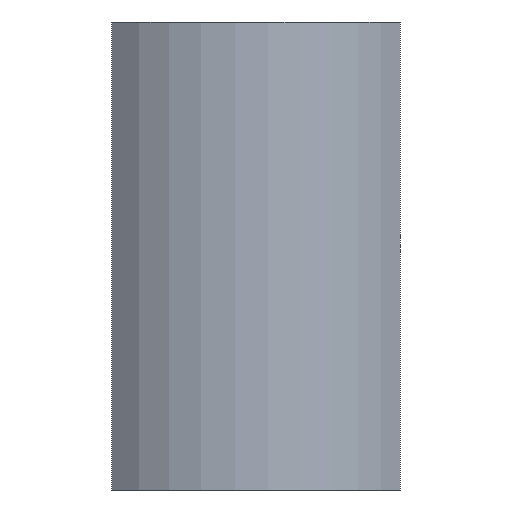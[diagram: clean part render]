
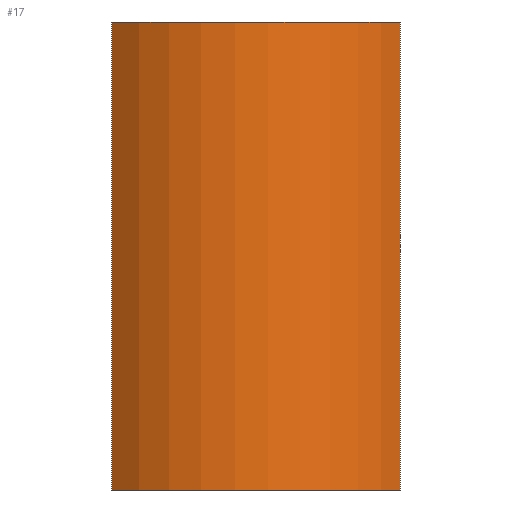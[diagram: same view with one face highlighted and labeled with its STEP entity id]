
A CAD part, front view. The second image highlights one B-rep face of the part: STEP entity #17.
In plain terms, the highlighted cylindrical face has radius 45 mm (diameter 90 mm), a partial arc.
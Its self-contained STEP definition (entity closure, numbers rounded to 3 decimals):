
#17 = ADVANCED_FACE('',(#18),#33,.T.);
#18 = FACE_BOUND('',#19,.F.);
#19 = EDGE_LOOP('',(#20,#56,#82,#111));
#20 = ORIENTED_EDGE('',*,*,#21,.F.);
#21 = EDGE_CURVE('',#22,#24,#26,.T.);
#22 = VERTEX_POINT('',#23);
#23 = CARTESIAN_POINT('',(-28.925,-34.472,0.));
#24 = VERTEX_POINT('',#25);
#25 = CARTESIAN_POINT('',(38.971,-22.5,0.));
#26 = SURFACE_CURVE('',#27,(#32,#44),.PCURVE_S1.);
#27 = CIRCLE('',#28,45.);
#28 = AXIS2_PLACEMENT_3D('',#29,#30,#31);
#29 = CARTESIAN_POINT('',(0.,0.,0.));
#30 = DIRECTION('',(0.,0.,1.));
#31 = DIRECTION('',(1.,0.,0.));
#32 = PCURVE('',#33,#38);
#33 = CYLINDRICAL_SURFACE('',#34,45.);
#34 = AXIS2_PLACEMENT_3D('',#35,#36,#37);
#35 = CARTESIAN_POINT('',(0.,0.,0.));
#36 = DIRECTION('',(-0.,-0.,-1.));
#37 = DIRECTION('',(1.,0.,0.));
#38 = DEFINITIONAL_REPRESENTATION('',(#39),#43);
#39 = LINE('',#40,#41);
#40 = CARTESIAN_POINT('',(-0.,0.));
#41 = VECTOR('',#42,1.);
#42 = DIRECTION('',(-1.,0.));
#43 = ( GEOMETRIC_REPRESENTATION_CONTEXT(2) 
PARAMETRIC_REPRESENTATION_CONTEXT() REPRESENTATION_CONTEXT('2D SPACE',''
  ) );
#44 = PCURVE('',#45,#50);
#45 = PLANE('',#46);
#46 = AXIS2_PLACEMENT_3D('',#47,#48,#49);
#47 = CARTESIAN_POINT('',(0.,0.,0.));
#48 = DIRECTION('',(0.,0.,1.));
#49 = DIRECTION('',(1.,0.,-0.));
#50 = DEFINITIONAL_REPRESENTATION('',(#51),#55);
#51 = CIRCLE('',#52,45.);
#52 = AXIS2_PLACEMENT_2D('',#53,#54);
#53 = CARTESIAN_POINT('',(0.,0.));
#54 = DIRECTION('',(1.,0.));
#55 = ( GEOMETRIC_REPRESENTATION_CONTEXT(2) 
PARAMETRIC_REPRESENTATION_CONTEXT() REPRESENTATION_CONTEXT('2D SPACE',''
  ) );
#56 = ORIENTED_EDGE('',*,*,#57,.F.);
#57 = EDGE_CURVE('',#58,#22,#60,.T.);
#58 = VERTEX_POINT('',#59);
#59 = CARTESIAN_POINT('',(-28.925,-34.472,110.));
#60 = SURFACE_CURVE('',#61,(#65,#71),.PCURVE_S1.);
#61 = LINE('',#62,#63);
#62 = CARTESIAN_POINT('',(-28.925,-34.472,0.));
#63 = VECTOR('',#64,1.);
#64 = DIRECTION('',(-0.,-0.,-1.));
#65 = PCURVE('',#33,#66);
#66 = DEFINITIONAL_REPRESENTATION('',(#67),#70);
#67 = B_SPLINE_CURVE_WITH_KNOTS('',1,(#68,#69),.UNSPECIFIED.,.F.,.F.,(2,
    2),(-110.,0.),.PIECEWISE_BEZIER_KNOTS.);
#68 = CARTESIAN_POINT('',(-4.014,-110.));
#69 = CARTESIAN_POINT('',(-4.014,0.));
#70 = ( GEOMETRIC_REPRESENTATION_CONTEXT(2) 
PARAMETRIC_REPRESENTATION_CONTEXT() REPRESENTATION_CONTEXT('2D SPACE',''
  ) );
#71 = PCURVE('',#72,#77);
#72 = PLANE('',#73);
#73 = AXIS2_PLACEMENT_3D('',#74,#75,#76);
#74 = CARTESIAN_POINT('',(0.,0.,0.));
#75 = DIRECTION('',(0.766,-0.643,0.));
#76 = DIRECTION('',(-0.643,-0.766,0.));
#77 = DEFINITIONAL_REPRESENTATION('',(#78),#81);
#78 = B_SPLINE_CURVE_WITH_KNOTS('',1,(#79,#80),.UNSPECIFIED.,.F.,.F.,(2,
    2),(-110.,0.),.PIECEWISE_BEZIER_KNOTS.);
#79 = CARTESIAN_POINT('',(45.,-110.));
#80 = CARTESIAN_POINT('',(45.,0.));
#81 = ( GEOMETRIC_REPRESENTATION_CONTEXT(2) 
PARAMETRIC_REPRESENTATION_CONTEXT() REPRESENTATION_CONTEXT('2D SPACE',''
  ) );
#82 = ORIENTED_EDGE('',*,*,#83,.T.);
#83 = EDGE_CURVE('',#58,#84,#86,.T.);
#84 = VERTEX_POINT('',#85);
#85 = CARTESIAN_POINT('',(38.971,-22.5,110.));
#86 = SURFACE_CURVE('',#87,(#92,#99),.PCURVE_S1.);
#87 = CIRCLE('',#88,45.);
#88 = AXIS2_PLACEMENT_3D('',#89,#90,#91);
#89 = CARTESIAN_POINT('',(0.,0.,110.));
#90 = DIRECTION('',(0.,0.,1.));
#91 = DIRECTION('',(1.,0.,0.));
#92 = PCURVE('',#33,#93);
#93 = DEFINITIONAL_REPRESENTATION('',(#94),#98);
#94 = LINE('',#95,#96);
#95 = CARTESIAN_POINT('',(-0.,-110.));
#96 = VECTOR('',#97,1.);
#97 = DIRECTION('',(-1.,0.));
#98 = ( GEOMETRIC_REPRESENTATION_CONTEXT(2) 
PARAMETRIC_REPRESENTATION_CONTEXT() REPRESENTATION_CONTEXT('2D SPACE',''
  ) );
#99 = PCURVE('',#100,#105);
#100 = PLANE('',#101);
#101 = AXIS2_PLACEMENT_3D('',#102,#103,#104);
#102 = CARTESIAN_POINT('',(0.,0.,110.));
#103 = DIRECTION('',(0.,0.,1.));
#104 = DIRECTION('',(1.,0.,-0.));
#105 = DEFINITIONAL_REPRESENTATION('',(#106),#110);
#106 = CIRCLE('',#107,45.);
#107 = AXIS2_PLACEMENT_2D('',#108,#109);
#108 = CARTESIAN_POINT('',(0.,0.));
#109 = DIRECTION('',(1.,0.));
#110 = ( GEOMETRIC_REPRESENTATION_CONTEXT(2) 
PARAMETRIC_REPRESENTATION_CONTEXT() REPRESENTATION_CONTEXT('2D SPACE',''
  ) );
#111 = ORIENTED_EDGE('',*,*,#112,.T.);
#112 = EDGE_CURVE('',#84,#24,#113,.T.);
#113 = SURFACE_CURVE('',#114,(#118,#124),.PCURVE_S1.);
#114 = LINE('',#115,#116);
#115 = CARTESIAN_POINT('',(38.971,-22.5,0.));
#116 = VECTOR('',#117,1.);
#117 = DIRECTION('',(-0.,-0.,-1.));
#118 = PCURVE('',#33,#119);
#119 = DEFINITIONAL_REPRESENTATION('',(#120),#123);
#120 = B_SPLINE_CURVE_WITH_KNOTS('',1,(#121,#122),.UNSPECIFIED.,.F.,.F.,
  (2,2),(-110.,0.),.PIECEWISE_BEZIER_KNOTS.);
#121 = CARTESIAN_POINT('',(-5.76,-110.));
#122 = CARTESIAN_POINT('',(-5.76,0.));
#123 = ( GEOMETRIC_REPRESENTATION_CONTEXT(2) 
PARAMETRIC_REPRESENTATION_CONTEXT() REPRESENTATION_CONTEXT('2D SPACE',''
  ) );
#124 = PCURVE('',#125,#130);
#125 = PLANE('',#126);
#126 = AXIS2_PLACEMENT_3D('',#127,#128,#129);
#127 = CARTESIAN_POINT('',(51.962,-30.,0.));
#128 = DIRECTION('',(-0.5,-0.866,0.));
#129 = DIRECTION('',(-0.866,0.5,0.));
#130 = DEFINITIONAL_REPRESENTATION('',(#131),#134);
#131 = B_SPLINE_CURVE_WITH_KNOTS('',1,(#132,#133),.UNSPECIFIED.,.F.,.F.,
  (2,2),(-110.,0.),.PIECEWISE_BEZIER_KNOTS.);
#132 = CARTESIAN_POINT('',(15.,-110.));
#133 = CARTESIAN_POINT('',(15.,0.));
#134 = ( GEOMETRIC_REPRESENTATION_CONTEXT(2) 
PARAMETRIC_REPRESENTATION_CONTEXT() REPRESENTATION_CONTEXT('2D SPACE',''
  ) );
